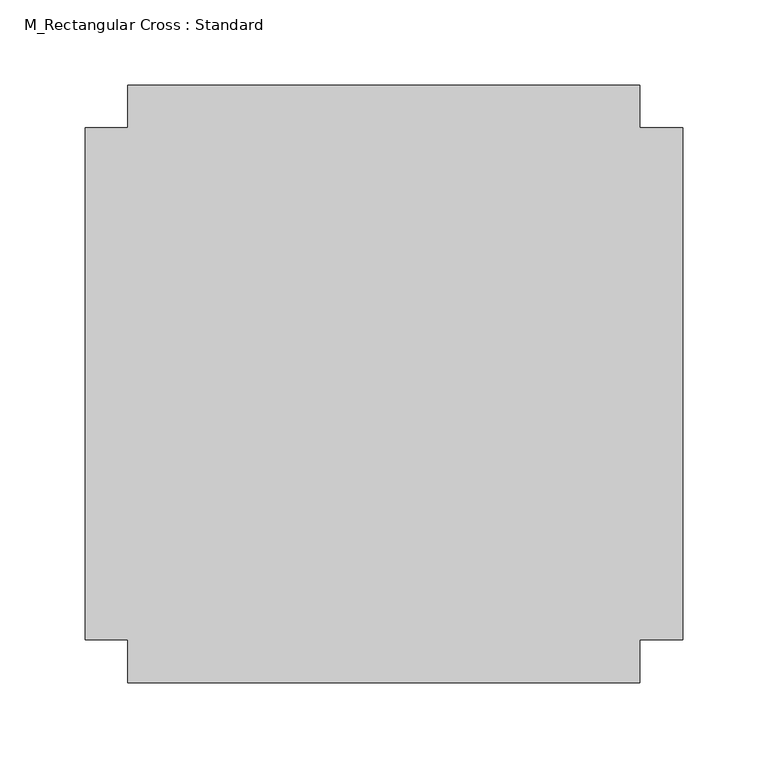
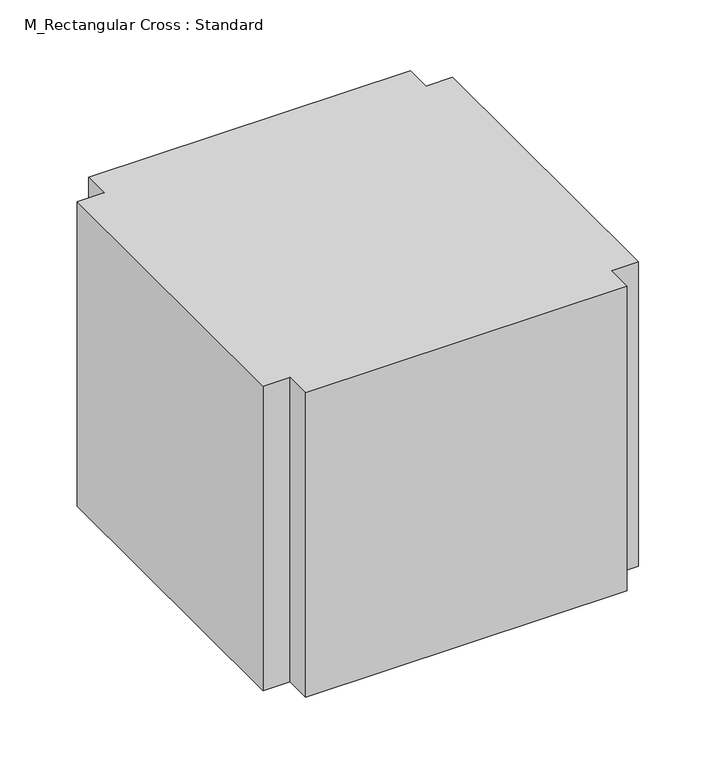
"""IFC4 building model written with IfcOpenShell, lengths in millimetres: duct fitting geometry, M_Rectangular Cross : Standard."""

from ifc_helpers import new_model, si_unit, frame, origin, place, context, project, spatial, polyline, outline, extrude, source, transform, mapped, element, save


def m_rectangular_cross_standard_f8b877fd(model_context):
    return source(origin(), model_context, "Body", "SweptSolid", [
        extrude(outline(polyline([(150.0, -175.0), (-150.0, -175.0), (-150.0, -150.0), (-175.0, -150.0), (-175.0, 150.0), (-150.0, 150.0), (-150.0, 175.0), (150.0, 175.0), (150.0, 150.0), (175.0, 150.0), (175.0, -150.0), (150.0, -150.0), (150.0, -175.0)])), frame((0.0, 0.0, -150.0), z_axis=(0.0, 0.0, 1.0), x_axis=(1.0, 0.0, 0.0)), (0.0, 0.0, 1.0), 300.0),
    ])


if __name__ == "__main__":
    model = new_model("IFC4")
    model_context = context("Model", 3, world=origin())
    ifc_project = project(units=[si_unit("LENGTHUNIT", "METRE", prefix="MILLI")], contexts=[model_context])
    site = spatial("IfcSite", under=ifc_project)
    building = spatial("IfcBuilding", under=site)
    placement = place(None, origin())
    m_rectangular_cross_standard_shape = m_rectangular_cross_standard_f8b877fd(model_context)
    element("IfcDuctFitting", 1, ObjectType="M_Rectangular Cross : Standard", at=placement, inside=building, context=model_context, shape_type="MappedRepresentation", body=[
        mapped(m_rectangular_cross_standard_shape, transform((0.0, 0.0, 0.0), x_axis=(1.0, 0.0, 0.0), y_axis=(0.0, 1.0, 0.0), z_axis=(0.0, 0.0, 1.0))),
    ])
    save(model, "model.ifc")
